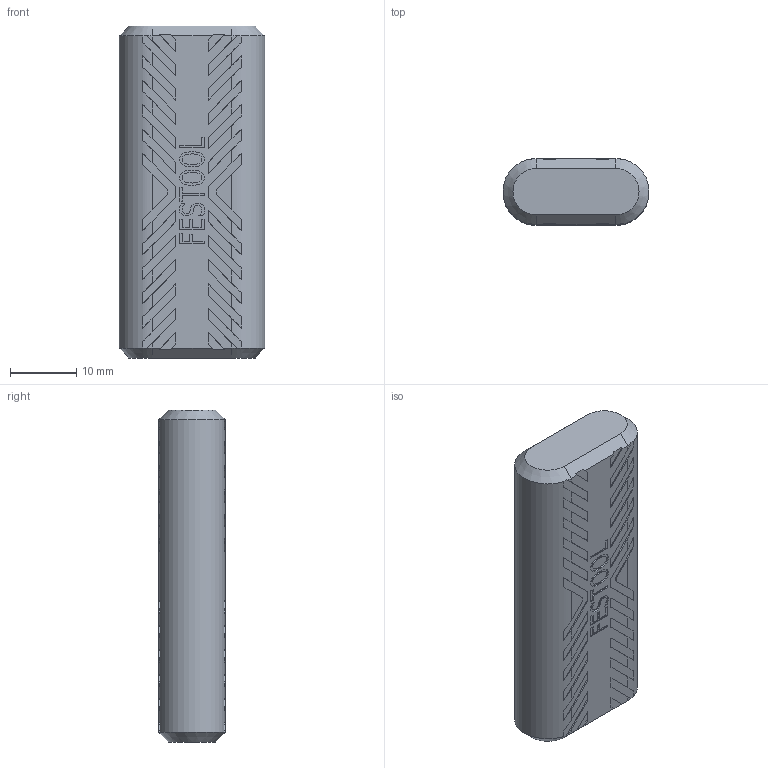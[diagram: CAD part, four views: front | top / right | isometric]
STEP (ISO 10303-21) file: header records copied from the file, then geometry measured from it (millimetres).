
FILE_DESCRIPTION(('Creo Elements/Direct Modeling STEP Export'),'2;1');
FILE_NAME('Domino_10x50.stp','2024-01-19T 8:03:42',(''),(''),'Creo Elements/Direct Modeling STEP processor for AP214 (Solid Model)','Creo Elements/Direct Modeling 20.5A 14-Oct-2022 (C) Parametric Technology GmbH','');
FILE_SCHEMA(('AUTOMOTIVE_DESIGN { 1 0 10303 214 1 1 1 1 }'));
Length unit declared in the file: millimetre
Products named in the file (1): 10x50_00464313
Bounding box: 21.96 x 10 x 50 mm (x, y, z)
Volume: 9723.2 mm3; surface area: 3261.3 mm2
Topology: 1 solids, 1 shells, 796 faces, 2299 edges, 1530 vertices
Faces by surface type: plane 782, cylinder 10, cone 4
Entity records: 25274 total; most frequent: CARTESIAN_POINT 4683, ORIENTED_EDGE 4598, DIRECTION 3779, EDGE_CURVE 2299, VECTOR 2111, LINE 2111, VERTEX_POINT 1530, AXIS2_PLACEMENT_3D 834
